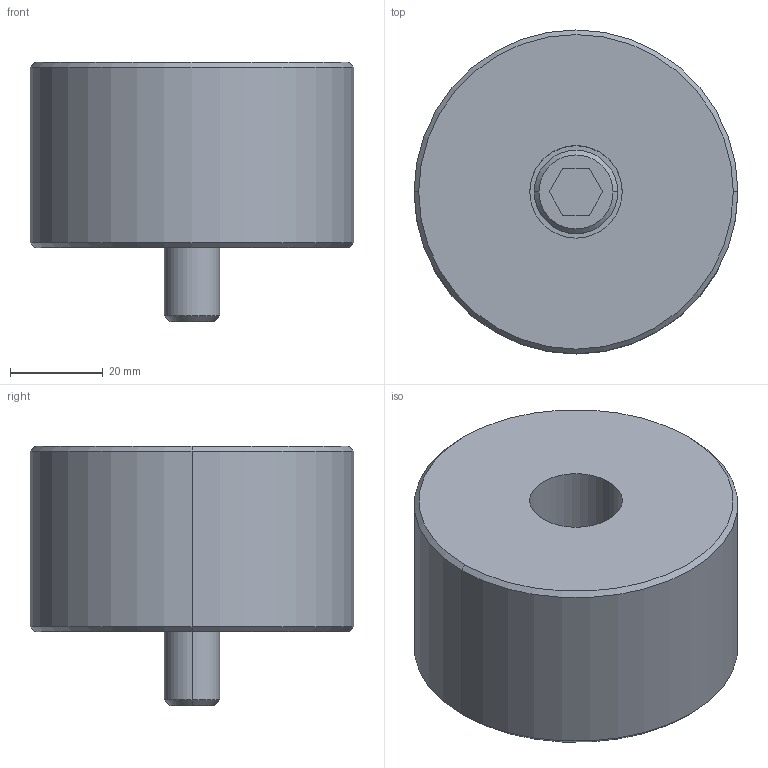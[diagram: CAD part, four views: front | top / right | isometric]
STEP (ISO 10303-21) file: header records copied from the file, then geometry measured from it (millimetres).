
FILE_DESCRIPTION((''),'2;1');
FILE_NAME('','2010-08-30T16:50:50+09:00',('misumi'),(''),'M/STEP i/f 1R2-14','CADmeister v5.1','');
FILE_SCHEMA(('AUTOMOTIVE_DESIGN'));
Length unit declared in the file: millimetre
Products named in the file (1): DEB70-40-N
Bounding box: 70 x 70 x 56 mm (x, y, z)
Volume: 149271.3 mm3; surface area: 20638.2 mm2
Topology: 2 solids, 2 shells, 31 faces, 64 edges, 40 vertices
Faces by surface type: plane 13, cylinder 10, cone 8
Entity records: 924 total; most frequent: DIRECTION 156, CARTESIAN_POINT 136, ORIENTED_EDGE 128, EDGE_CURVE 64, AXIS2_PLACEMENT_3D 60, VERTEX_POINT 40, LINE 36, VECTOR 36
